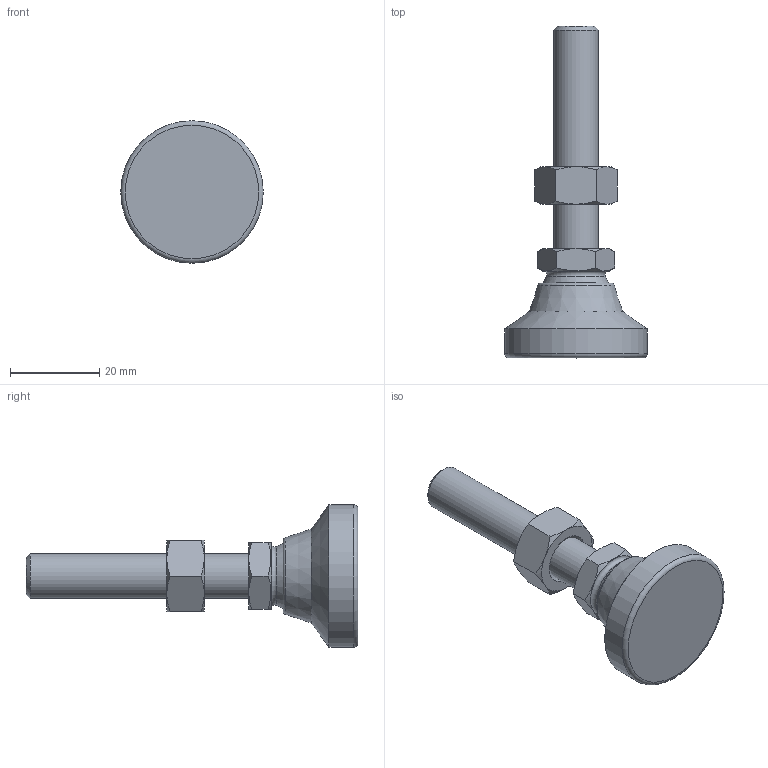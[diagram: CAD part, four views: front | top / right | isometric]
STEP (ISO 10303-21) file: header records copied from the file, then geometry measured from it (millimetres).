
FILE_DESCRIPTION( ( 'STEP AP214' ), ' ' );
FILE_NAME( 'O:/ganter_2015/teil_2/2_5/gn343_2/gn343_2_kse/Levelling foot with threaded stud GN 343.2-32-M10-50-KSE-(0).stp', '2015-10-26T09:15:36', ( '' ), ( '' ), ' ', 'PARTsolutions', ' ' );
FILE_SCHEMA( ( 'AUTOMOTIVE_DESIGN { 1 0 10303 214 1 1 1 1 }' ) );
Length unit declared in the file: millimetre
Products named in the file (4): Levelling foot with threaded stud GN 343.2-32-M10-50-KSE-(0); _Levelling foot with threaded stud GN 343.2-32-M10-50-KSE-(0)_foot; _Levelling foot with threaded stud GN 343.2-32-M10-50-KSE-(0)_screw; _Levelling foot with threaded stud GN 343.2-32-M10-50-KSE-(0)_nut
Assembly tree (3 placements, depth 2):
  Levelling foot with threaded stud GN 343.2-32-M10-50-KSE-(0)
    _Levelling foot with threaded stud GN 343.2-32-M10-50-KSE-(0)_foot
    _Levelling foot with threaded stud GN 343.2-32-M10-50-KSE-(0)_screw
    _Levelling foot with threaded stud GN 343.2-32-M10-50-KSE-(0)_nut
Bounding box: 32 x 74.5 x 32 mm (x, y, z)
Volume: 15858.1 mm3; surface area: 6556.4 mm2
Topology: 3 solids, 3 shells, 50 faces, 107 edges, 63 vertices
Faces by surface type: cone 24, plane 18, torus 3, cylinder 3, sphere 2
Full cylindrical faces by diameter (mm): 8.376 x1, 10 x1, 32 x1
Entity records: 1874 total; most frequent: CARTESIAN_POINT 468, DIRECTION 188, ORIENTED_EDGE 176, AXIS2_PLACEMENT_3D 88, EDGE_CURVE 88, EDGE_LOOP 66, VERTEX_POINT 60, FACE_OUTER_BOUND 56
